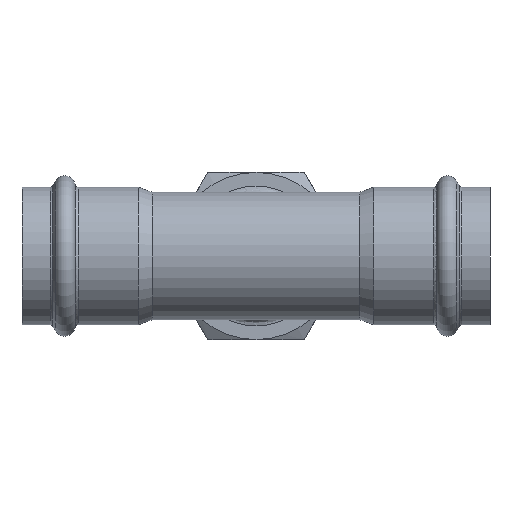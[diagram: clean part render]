
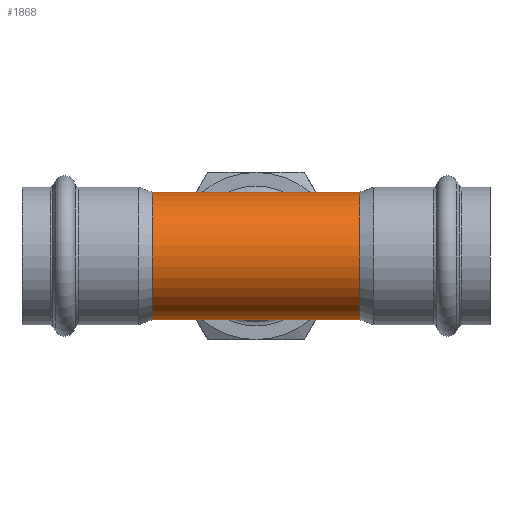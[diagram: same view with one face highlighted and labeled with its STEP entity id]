
A CAD part, front view. The second image highlights one B-rep face of the part: STEP entity #1868.
In plain terms, the highlighted cylindrical face has radius 21 mm (diameter 42 mm), a full revolution.
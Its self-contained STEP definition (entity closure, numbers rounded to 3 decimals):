
#1169=CARTESIAN_POINT('',(0.0,0.0,-21.0));
#1170=VERTEX_POINT('',#1169);
#1171=CARTESIAN_POINT('',(0.0,0.0,21.0));
#1172=VERTEX_POINT('',#1171);
#1173=CARTESIAN_POINT('',(0.0,0.0,0.0));
#1174=DIRECTION('',(0.69,0.723,0.0));
#1175=DIRECTION('',(-0.723,0.69,0.0));
#1176=AXIS2_PLACEMENT_3D('',#1173,#1174,#1175);
#1177=ELLIPSE('',#1176,30.414,21.);
#1178=EDGE_CURVE('',#1170,#1172,#1177,.T.);
#1327=CARTESIAN_POINT('',(0.0,0.0,0.0));
#1328=DIRECTION('',(-0.69,0.723,0.0));
#1329=DIRECTION('',(0.723,0.69,0.0));
#1330=AXIS2_PLACEMENT_3D('',#1327,#1328,#1329);
#1331=ELLIPSE('',#1330,30.414,21.);
#1332=EDGE_CURVE('',#1172,#1170,#1331,.T.);
#1830=CARTESIAN_POINT('',(-34.202,21.,0.0));
#1831=VERTEX_POINT('',#1830);
#1832=CARTESIAN_POINT('',(-34.202,0.,0.0));
#1833=DIRECTION('',(1.0,0.0,0.0));
#1834=DIRECTION('',(0.0,1.0,0.0));
#1835=AXIS2_PLACEMENT_3D('',#1832,#1833,#1834);
#1836=CIRCLE('',#1835,21.);
#1837=EDGE_CURVE('',#1831,#1831,#1836,.T.);
#1845=CARTESIAN_POINT('',(0.0,0.0,0.0));
#1846=DIRECTION('',(1.0,0.,0.0));
#1847=DIRECTION('',(0.0,1.0,0.0));
#1848=AXIS2_PLACEMENT_3D('',#1845,#1846,#1847);
#1849=CYLINDRICAL_SURFACE('',#1848,21.);
#1850=ORIENTED_EDGE('',*,*,#1837,.T.);
#1851=EDGE_LOOP('',(#1850));
#1852=FACE_OUTER_BOUND('',#1851,.T.);
#1853=ORIENTED_EDGE('',*,*,#1178,.F.);
#1854=ORIENTED_EDGE('',*,*,#1332,.F.);
#1855=EDGE_LOOP('',(#1853,#1854));
#1856=FACE_BOUND('',#1855,.T.);
#1857=CARTESIAN_POINT('',(34.202,21.,0.0));
#1858=VERTEX_POINT('',#1857);
#1859=CARTESIAN_POINT('',(34.202,0.,0.0));
#1860=DIRECTION('',(1.0,0.0,0.0));
#1861=DIRECTION('',(0.0,1.0,0.0));
#1862=AXIS2_PLACEMENT_3D('',#1859,#1860,#1861);
#1863=CIRCLE('',#1862,21.);
#1864=EDGE_CURVE('',#1858,#1858,#1863,.T.);
#1865=ORIENTED_EDGE('',*,*,#1864,.F.);
#1866=EDGE_LOOP('',(#1865));
#1867=FACE_BOUND('',#1866,.T.);
#1868=ADVANCED_FACE('',(#1852,#1856,#1867),#1849,.T.);
